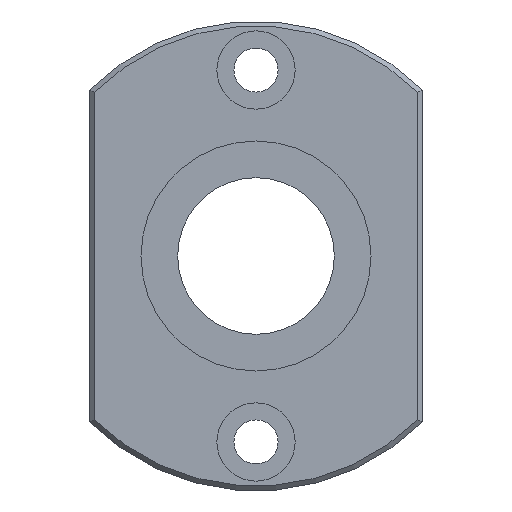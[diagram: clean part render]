
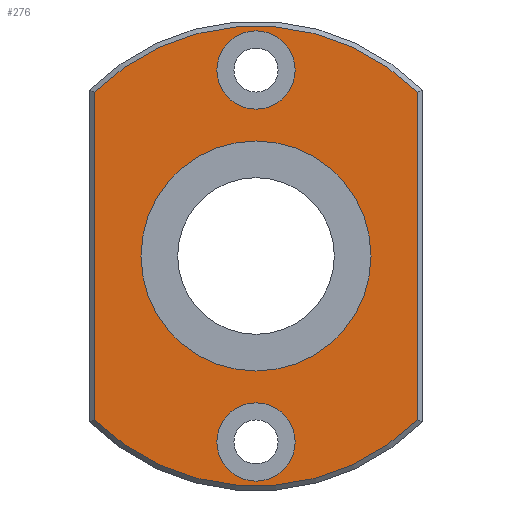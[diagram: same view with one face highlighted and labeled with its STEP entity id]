
A CAD part, left-side view. The second image highlights one B-rep face of the part: STEP entity #276.
In plain terms, the highlighted planar face has unit normal (-1, 0, 0).
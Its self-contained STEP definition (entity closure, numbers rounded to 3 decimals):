
#59=CARTESIAN_POINT('',(0.0,16.5,-16.733));
#60=VERTEX_POINT('',#59);
#68=CARTESIAN_POINT('',(0.0,16.5,16.733));
#69=VERTEX_POINT('',#68);
#70=CARTESIAN_POINT('',(0.0,16.5,-16.733));
#71=DIRECTION('',(0.0,0.0,1.0));
#72=VECTOR('',#71,33.466);
#73=LINE('',#70,#72);
#74=EDGE_CURVE('',#60,#69,#73,.T.);
#101=CARTESIAN_POINT('',(0.0,-16.5,16.733));
#102=VERTEX_POINT('',#101);
#103=CARTESIAN_POINT('',(0.0,0.0,0.0));
#104=DIRECTION('',(1.0,0.0,0.0));
#105=DIRECTION('',(0.0,0.0,1.0));
#106=AXIS2_PLACEMENT_3D('',#103,#104,#105);
#107=CIRCLE('',#106,23.5);
#108=EDGE_CURVE('',#69,#102,#107,.T.);
#134=CARTESIAN_POINT('',(0.0,-16.5,-16.733));
#135=VERTEX_POINT('',#134);
#136=CARTESIAN_POINT('',(0.0,-16.5,16.733));
#137=DIRECTION('',(0.0,0.0,-1.0));
#138=VECTOR('',#137,33.466);
#139=LINE('',#136,#138);
#140=EDGE_CURVE('',#102,#135,#139,.T.);
#165=CARTESIAN_POINT('',(0.0,0.0,0.0));
#166=DIRECTION('',(1.0,0.0,0.0));
#167=DIRECTION('',(0.0,0.0,-1.0));
#168=AXIS2_PLACEMENT_3D('',#165,#166,#167);
#169=CIRCLE('',#168,23.5);
#170=EDGE_CURVE('',#135,#60,#169,.T.);
#232=CARTESIAN_POINT('',(0.0,0.0,12.875));
#233=DIRECTION('',(-1.0,0.0,0.0));
#234=DIRECTION('',(0.0,0.0,1.0));
#235=AXIS2_PLACEMENT_3D('',#232,#233,#234);
#236=PLANE('',#235);
#237=ORIENTED_EDGE('',*,*,#74,.F.);
#238=ORIENTED_EDGE('',*,*,#170,.F.);
#239=ORIENTED_EDGE('',*,*,#140,.F.);
#240=ORIENTED_EDGE('',*,*,#108,.F.);
#241=EDGE_LOOP('',(#237,#238,#239,#240));
#242=FACE_OUTER_BOUND('',#241,.T.);
#243=CARTESIAN_POINT('',(0.0,0.0,11.75));
#244=VERTEX_POINT('',#243);
#245=CARTESIAN_POINT('',(0.0,0.0,0.0));
#246=DIRECTION('',(-1.0,0.0,0.0));
#247=DIRECTION('',(0.0,0.0,1.0));
#248=AXIS2_PLACEMENT_3D('',#245,#246,#247);
#249=CIRCLE('',#248,11.75);
#250=EDGE_CURVE('',#244,#244,#249,.T.);
#251=ORIENTED_EDGE('',*,*,#250,.F.);
#252=EDGE_LOOP('',(#251));
#253=FACE_BOUND('',#252,.T.);
#254=CARTESIAN_POINT('',(0.0,4.,-19.0));
#255=VERTEX_POINT('',#254);
#256=CARTESIAN_POINT('',(0.0,0.,-19.0));
#257=DIRECTION('',(1.0,0.0,0.0));
#258=DIRECTION('',(0.0,1.0,0.0));
#259=AXIS2_PLACEMENT_3D('',#256,#257,#258);
#260=CIRCLE('',#259,4.0);
#261=EDGE_CURVE('',#255,#255,#260,.T.);
#262=ORIENTED_EDGE('',*,*,#261,.T.);
#263=EDGE_LOOP('',(#262));
#264=FACE_BOUND('',#263,.T.);
#265=CARTESIAN_POINT('',(0.0,4.,19.0));
#266=VERTEX_POINT('',#265);
#267=CARTESIAN_POINT('',(0.0,0.,19.0));
#268=DIRECTION('',(1.0,0.0,0.0));
#269=DIRECTION('',(0.0,1.0,0.0));
#270=AXIS2_PLACEMENT_3D('',#267,#268,#269);
#271=CIRCLE('',#270,4.0);
#272=EDGE_CURVE('',#266,#266,#271,.T.);
#273=ORIENTED_EDGE('',*,*,#272,.T.);
#274=EDGE_LOOP('',(#273));
#275=FACE_BOUND('',#274,.T.);
#276=ADVANCED_FACE('',(#242,#253,#264,#275),#236,.T.);
